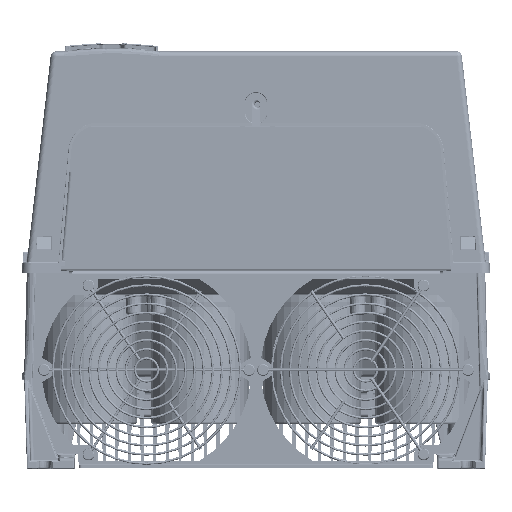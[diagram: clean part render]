
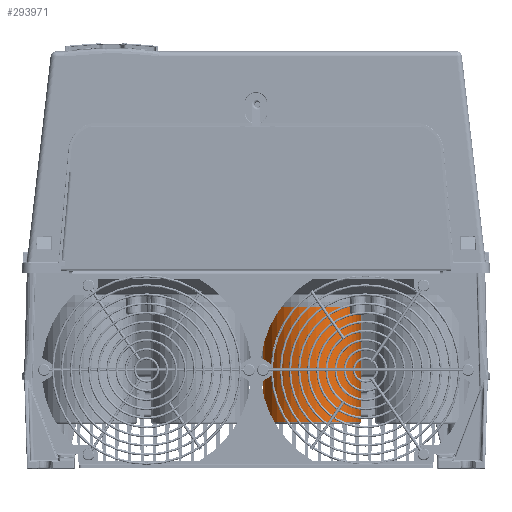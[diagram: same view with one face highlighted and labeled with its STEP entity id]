
A CAD part, front view. The second image highlights one B-rep face of the part: STEP entity #293971.
In plain terms, the highlighted cylindrical face has radius 38.6 mm (diameter 77.2 mm), a partial arc.
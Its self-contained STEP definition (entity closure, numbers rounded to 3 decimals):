
#102031=CARTESIAN_POINT('',(44.25,-236.5,-123.072));
#102032=DIRECTION('',(0.,0.,1.));
#102033=DIRECTION('',(-0.996,0.087,0.));
#102034=AXIS2_PLACEMENT_3D('',#102031,#102032,#102033);
#102036=CARTESIAN_POINT('',(44.25,-236.5,-32.2));
#102037=DIRECTION('',(0.,0.,-1.));
#102038=DIRECTION('',(0.996,-0.087,0.));
#102039=AXIS2_PLACEMENT_3D('',#102036,#102037,#102038);
#102041=DIRECTION('',(0.,0.,-1.));
#102042=VECTOR('',#102041,90.872);
#102043=CARTESIAN_POINT('',(82.703,-239.864,-32.2));
#102044=LINE('',#102043,#102042);
#102065=DIRECTION('',(0.,0.,-1.));
#102066=VECTOR('',#102065,90.872);
#102067=CARTESIAN_POINT('',(5.797,-233.136,-32.2));
#102068=LINE('',#102067,#102066);
#115644=CARTESIAN_POINT('',(82.703,-239.864,-32.2));
#115645=CARTESIAN_POINT('',(5.797,-233.136,-32.2));
#115646=VERTEX_POINT('',#115644);
#115647=VERTEX_POINT('',#115645);
#115879=CARTESIAN_POINT('',(82.703,-239.864,
-123.072));
#115880=CARTESIAN_POINT('',(5.797,-233.136,
-123.072));
#115881=VERTEX_POINT('',#115879);
#115882=VERTEX_POINT('',#115880);
#293957=CARTESIAN_POINT('',(44.25,-236.5,-3.));
#293958=DIRECTION('',(0.,0.,-1.));
#293959=DIRECTION('',(0.996,-0.087,0.));
#293960=AXIS2_PLACEMENT_3D('',#293957,#293958,#293959);
#293961=CYLINDRICAL_SURFACE('',#293960,38.6);
#293963=ORIENTED_EDGE('',*,*,#293962,.F.);
#293965=ORIENTED_EDGE('',*,*,#293964,.F.);
#293966=ORIENTED_EDGE('',*,*,#293947,.F.);
#293968=ORIENTED_EDGE('',*,*,#293967,.T.);
#293969=EDGE_LOOP('',(#293963,#293965,#293966,#293968));
#293970=FACE_OUTER_BOUND('',#293969,.F.);
#102035=CIRCLE('',#102034,38.6);
#102040=CIRCLE('',#102039,38.6);
#293947=EDGE_CURVE('',#115646,#115647,#102040,.T.);
#293962=EDGE_CURVE('',#115882,#115881,#102035,.T.);
#293964=EDGE_CURVE('',#115647,#115882,#102068,.T.);
#293967=EDGE_CURVE('',#115646,#115881,#102044,.T.);
#293971=ADVANCED_FACE('',(#293970),#293961,.T.);
